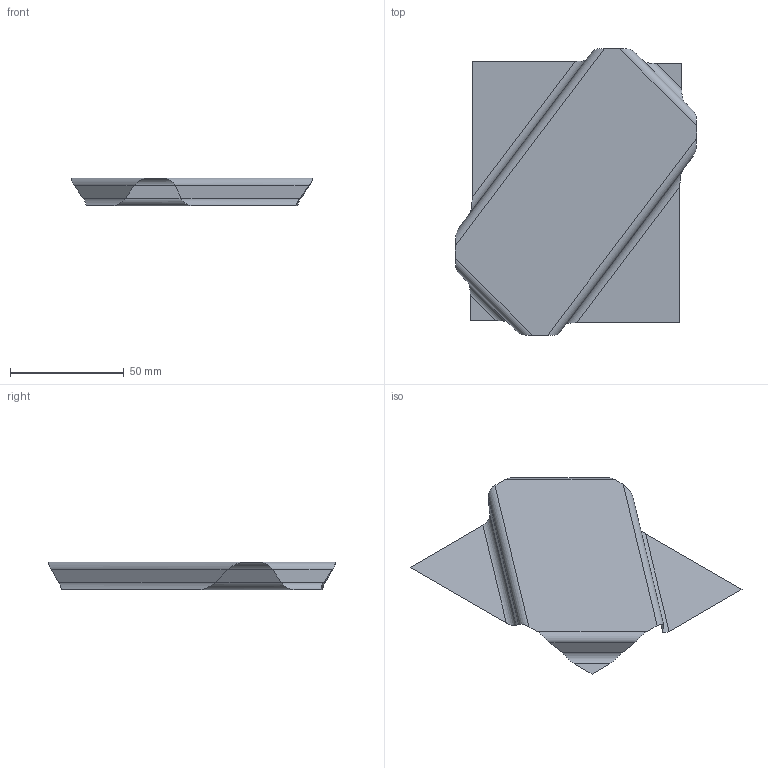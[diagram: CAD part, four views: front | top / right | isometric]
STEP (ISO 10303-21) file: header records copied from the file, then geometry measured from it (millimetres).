
FILE_DESCRIPTION(('CATIA V5 STEP Exchange'),'2;1');
FILE_NAME('C:\_Andres\UNIVERSIDAD\IQS\ASIGNATURAS\DAO\EXF\EXF-15161c\1original\Molins_Gutiérrez_Ej03-chapa_v16.stp','2016-03-04T16:55:59+00:00',('none'),('none'),'CATIA Version 5 Release 20 SP 1 (IN-10)','CATIA V5 STEP AP203','none');
FILE_SCHEMA(('CONFIG_CONTROL_DESIGN'));
Length unit declared in the file: millimetre
Products named in the file (1): Molins_Gutiérrez_Ej03-chapa_v16
Bounding box: 106.01 x 126.01 x 12.29 mm (x, y, z)
Surface area: 13399.1 mm2 (no closed solid volume)
Topology: 0 solids, 1 shells, 17 faces, 52 edges, 36 vertices
Faces by surface type: plane 9, cylinder 8
Entity records: 622 total; most frequent: CARTESIAN_POINT 203, ORIENTED_EDGE 68, DIRECTION 56, EDGE_CURVE 52, VERTEX_POINT 36, B_SPLINE_CURVE_WITH_KNOTS 32, VECTOR 20, LINE 20
